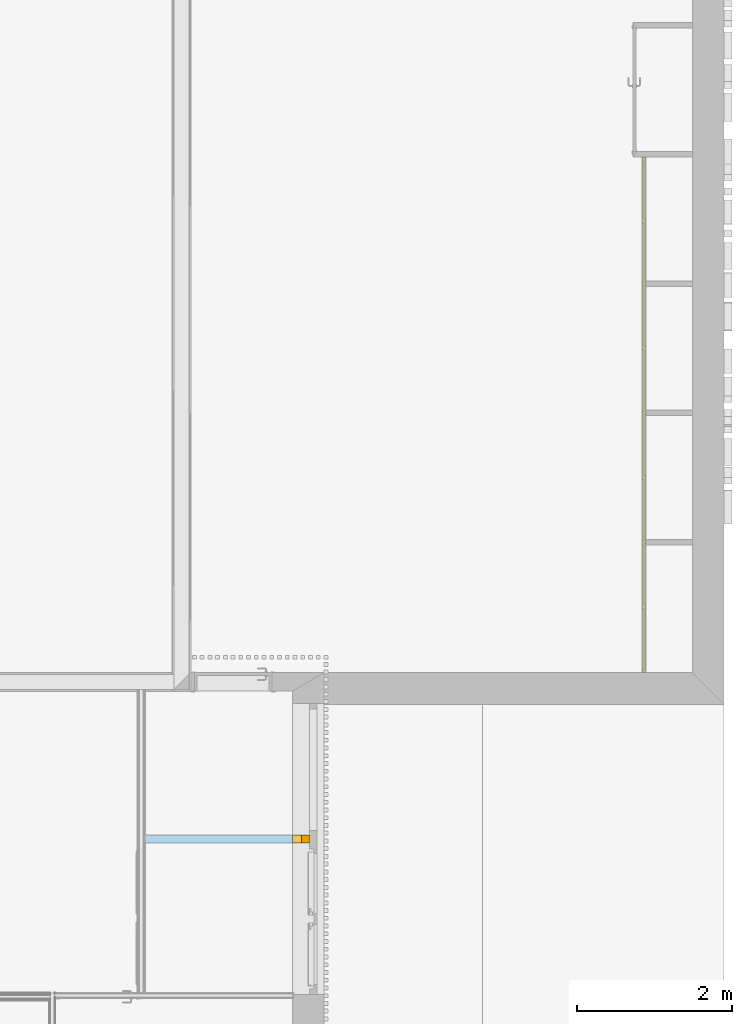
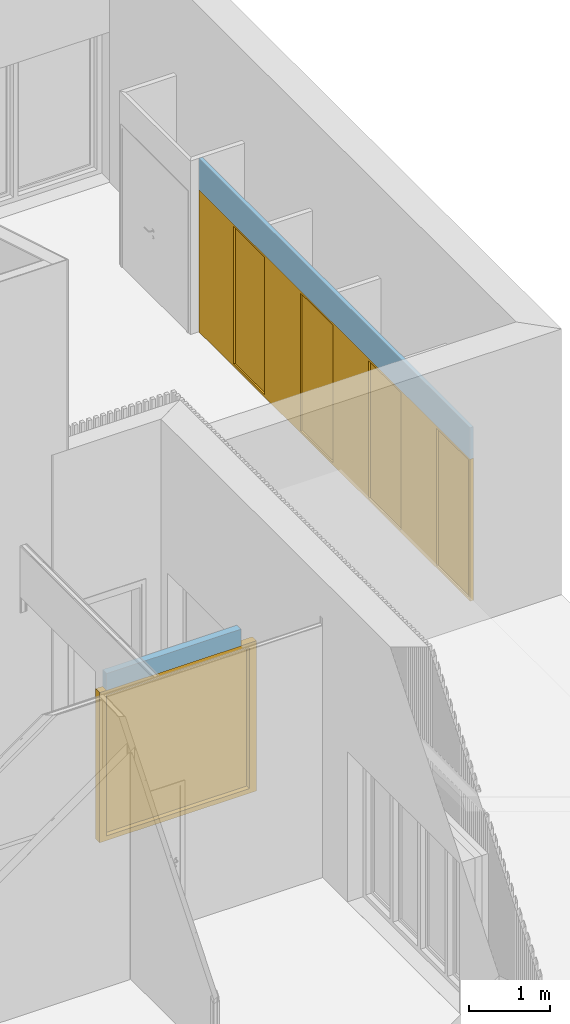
# One storey, part 12 of 34: 2 windows, 2 openings, plus 2 elements that do not belong to this part.
"""IFC2X3 building model written with IfcOpenShell, lengths in metres."""

import ifcopenshell
import ifcopenshell.guid

model = None  # the IFC model being written
_history = None  # IfcOwnerHistory: only IFC2X3 demands one
_inside = {}  # id of a spatial element -> (the spatial element, [elements in it])
_under = {}  # id of a project, library or spatial element -> (it, [spatial elements below it])
_declared = {}  # id of a project -> (the project, [libraries it declares])
_typed = {}  # id of a type object -> (the type object, [elements of that type])
_made_of = {}  # id of a material, layer set ... -> (it, [elements and type objects made of it])


def new_model(schema):
    """Start an empty IFC model of exactly this schema.

    Asked for "IFC4X3", IfcOpenShell would pick the latest addendum, in which some entities
    have other attributes; the version numbers below select the first issue.
    IFC2X3 requires an IfcOwnerHistory on every rooted entity: one is made here for all.
    """
    global model, _history
    if schema == "IFC4X3":
        model = ifcopenshell.file(schema_version=(4, 3, 0, 0))
    else:
        model = ifcopenshell.file(schema=schema)
    _inside.clear()
    _under.clear()
    _declared.clear()
    _typed.clear()
    _made_of.clear()
    _history = None
    if model.schema == "IFC2X3":
        org = make("IfcOrganization", Name="unknown")
        user = make(
            "IfcPersonAndOrganization",
            ThePerson=make("IfcPerson", FamilyName="unknown"),
            TheOrganization=org,
        )
        app = make(
            "IfcApplication",
            ApplicationDeveloper=org,
            Version="unknown",
            ApplicationFullName="unknown",
            ApplicationIdentifier="unknown",
        )
        _history = make(
            "IfcOwnerHistory",
            OwningUser=user,
            OwningApplication=app,
            ChangeAction="ADDED",
            CreationDate=0,
        )
    return model


def make(cls, **values):
    """One entity of the class cls with the attributes given. An attribute that is None is left unset."""
    return model.create_entity(
        cls, **{name: value for name, value in values.items() if value is not None}
    )


def entity(cls, *values):
    """Any entity or typed value of the class cls, its attributes in the order of the schema. None: left unset."""
    e = model.create_entity(cls)
    for i, value in enumerate(values):
        if value is not None:
            e[i] = value
    return e


def rooted(cls, **values):
    """An entity with a GlobalId (a new one), such as an element, a storey or a relation."""
    return make(cls, GlobalId=ifcopenshell.guid.new(), OwnerHistory=_history, **values)


def si_unit(unit_type, name, prefix=None):
    """IfcSIUnit, for example si_unit("LENGTHUNIT", "METRE", prefix="MILLI")."""
    return make("IfcSIUnit", UnitType=unit_type, Prefix=prefix, Name=name)


def converted_unit(unit_type, name, factor, base, dimensions=None, offset=None):
    """IfcConversionBasedUnit, such as the inch: factor (a typed value) times the base unit."""
    return make(
        "IfcConversionBasedUnit"
        if offset is None
        else "IfcConversionBasedUnitWithOffset",
        ConversionOffset=offset,
        Dimensions=None
        if dimensions is None
        else entity("IfcDimensionalExponents", *dimensions),
        UnitType=unit_type,
        Name=name,
        ConversionFactor=make(
            "IfcMeasureWithUnit", ValueComponent=factor, UnitComponent=base
        ),
    )


def derived_unit(unit_type, elements):
    """IfcDerivedUnit: a product of units, each with its exponent."""
    return make(
        "IfcDerivedUnit",
        Elements=[
            make("IfcDerivedUnitElement", Unit=unit, Exponent=power)
            for unit, power in elements
        ],
        UnitType=unit_type,
    )


def money_unit(currency):
    """IfcMonetaryUnit."""
    return make("IfcMonetaryUnit", Currency=currency)


def assignment(units):
    """IfcUnitAssignment: the units of a project."""
    return None if units is None else make("IfcUnitAssignment", Units=units)


def point(xyz):
    """IfcCartesianPoint."""
    return None if xyz is None else make("IfcCartesianPoint", Coordinates=xyz)


def direction(xyz):
    """IfcDirection."""
    return None if xyz is None else make("IfcDirection", DirectionRatios=xyz)


def frame(location, z_axis=None, x_axis=None):
    """IfcAxis2Placement3D, a coordinate frame: its origin and axes. An axis left out is left unset."""
    return make(
        "IfcAxis2Placement3D",
        Location=point(location),
        Axis=direction(z_axis),
        RefDirection=direction(x_axis),
    )


def frame_2d(location, x_axis=None):
    """IfcAxis2Placement2D, a coordinate frame in the plane: its origin and x axis."""
    return make(
        "IfcAxis2Placement2D", Location=point(location), RefDirection=direction(x_axis)
    )


def origin_with_axes():
    """The frame at (0, 0, 0) with the z axis (0, 0, 1) and the x axis (1, 0, 0) written out."""
    return frame((0.0, 0.0, 0.0), z_axis=(0.0, 0.0, 1.0), x_axis=(1.0, 0.0, 0.0))


def origin_2d_with_axis():
    """The frame at (0, 0) in the plane with the x axis (1, 0) written out."""
    return frame_2d((0.0, 0.0), x_axis=(1.0, 0.0))


def place(relative_to, where):
    """IfcLocalPlacement: puts the frame where relative to a parent placement (None: the world)."""
    return make(
        "IfcLocalPlacement", PlacementRelTo=relative_to, RelativePlacement=where
    )


def context(
    kind, dimensions, precision=None, world=None, true_north=None, identifier=None
):
    """IfcGeometricRepresentationContext, for example the 3D "Model" context."""
    return make(
        "IfcGeometricRepresentationContext",
        ContextIdentifier=identifier,
        ContextType=kind,
        CoordinateSpaceDimension=dimensions,
        Precision=precision,
        WorldCoordinateSystem=world,
        TrueNorth=true_north,
    )


def subcontext(parent, identifier, kind, view, scale=None):
    """IfcGeometricRepresentationSubContext, for example "Body" below "Model"."""
    return make(
        "IfcGeometricRepresentationSubContext",
        ContextIdentifier=identifier,
        ContextType=kind,
        ParentContext=parent,
        TargetScale=scale,
        TargetView=view,
    )


def project(units=None, contexts=None):
    """IfcProject with its units and contexts."""
    return rooted(
        "IfcProject",
        Name="project",
        RepresentationContexts=contexts,
        UnitsInContext=assignment(units),
    )


def spatial(cls, under=None, at=None, **own):
    """A site, building, storey or space (cls), placed at a placement, below another one or the project."""
    s = rooted(cls, ObjectPlacement=at, **own)
    if under is not None:
        _under.setdefault(under.id(), (under, []))[1].append(s)
    return s


def polyline(points):
    """IfcPolyline through the points."""
    return make("IfcPolyline", Points=[point(p) for p in points])


def profile(cls, at=None, kind="AREA", **sizes):
    """A parametric profile (cls). Its sizes go by their IFC names, for example OverallWidth=200.0."""
    return make(cls, ProfileType=kind, Position=at, **sizes)


def rectangle(**sizes):
    """IfcRectangleProfileDef."""
    return profile("IfcRectangleProfileDef", **sizes)


def outline(outer, holes=None, kind="AREA"):
    """IfcArbitraryClosedProfileDef: a profile drawn as a closed curve; with holes, ...WithVoids."""
    if holes is None:
        return make("IfcArbitraryClosedProfileDef", ProfileType=kind, OuterCurve=outer)
    return make(
        "IfcArbitraryProfileDefWithVoids",
        ProfileType=kind,
        OuterCurve=outer,
        InnerCurves=holes,
    )


def extrude(swept, where, along, depth):
    """IfcExtrudedAreaSolid: the profile swept, set in the frame where, extruded along a direction by depth."""
    return make(
        "IfcExtrudedAreaSolid",
        SweptArea=swept,
        Position=where,
        ExtrudedDirection=direction(along),
        Depth=depth,
    )


def faces_of(points, faces, orient=None, outer=None):
    """IfcFace entities. A face is a list of loops; a loop is a list of indices into points, from 0.

    orient and outer hold one flag for each loop. By default every Orientation is true, the
    first loop of a face is its IfcFaceOuterBound and the others are IfcFaceBound.
    """
    made = []
    for i, loops in enumerate(faces):
        bounds = []
        for j, loop in enumerate(loops):
            is_outer = j == 0 if outer is None else outer[i][j]
            bounds.append(
                make(
                    "IfcFaceOuterBound" if is_outer else "IfcFaceBound",
                    Bound=make("IfcPolyLoop", Polygon=[points[k] for k in loop]),
                    Orientation=True if orient is None else orient[i][j],
                )
            )
        made.append(make("IfcFace", Bounds=bounds))
    return made


def open_shell(faces, orient=None, outer=None):
    """The faces of one IfcOpenShell. surface_model builds it on its shared points."""
    return ("IfcOpenShell", faces, orient, outer)


def faceted_brep(points, faces, orient=None, outer=None, voids=None):
    """IfcFacetedBrep: a solid bounded by flat faces; with voids (closed shells), ...WithVoids."""
    shared = [point(p) for p in points]
    hull = make("IfcClosedShell", CfsFaces=faces_of(shared, faces, orient, outer))
    if voids is None:
        return make("IfcFacetedBrep", Outer=hull)
    return make(
        "IfcFacetedBrepWithVoids",
        Outer=hull,
        Voids=[
            make(cls, CfsFaces=faces_of(shared, fs, o, b)) for cls, fs, o, b in voids
        ],
    )


def surface_model(cls, points, shells):
    """IfcFaceBasedSurfaceModel or IfcShellBasedSurfaceModel (cls): surfaces that need not close."""
    shared = [point(p) for p in points]
    made = [make(c, CfsFaces=faces_of(shared, fs, o, b)) for c, fs, o, b in shells]
    if cls == "IfcFaceBasedSurfaceModel":
        return make(cls, FbsmFaces=made)
    return make(cls, SbsmBoundary=made)


def shape(context_of_items, identifier, shape_type, items):
    """IfcShapeRepresentation: the items that make up one representation, for example the "Body"."""
    return make(
        "IfcShapeRepresentation",
        ContextOfItems=context_of_items,
        RepresentationIdentifier=identifier,
        RepresentationType=shape_type,
        Items=items,
    )


def material(Name=None, Category=None):
    """IfcMaterial."""
    return make("IfcMaterial", Name=Name, Category=Category)


def layer(
    of_material, thickness, ventilated=None, Name=None, Category=None, Priority=None
):
    """IfcMaterialLayer: one layer of a wall or slab, of a material (None: an air gap)."""
    return make(
        "IfcMaterialLayer",
        Material=of_material,
        LayerThickness=thickness,
        IsVentilated=ventilated,
        Name=Name,
        Category=Category,
        Priority=Priority,
    )


def layer_set(layers, Name=None):
    """IfcMaterialLayerSet."""
    return make("IfcMaterialLayerSet", MaterialLayers=layers, LayerSetName=Name)


def layer_usage(for_layer_set, set_direction, sense, offset, extent=None):
    """IfcMaterialLayerSetUsage: how a layer set lies in its element."""
    return make(
        "IfcMaterialLayerSetUsage",
        ForLayerSet=for_layer_set,
        LayerSetDirection=set_direction,
        DirectionSense=sense,
        OffsetFromReferenceLine=offset,
        ReferenceExtent=extent,
    )


def made_of(thing, what):
    """Note that an element or type object is made of a material, layer set ...; save() writes the relation."""
    if what is not None:
        _made_of.setdefault(what.id(), (what, []))[1].append(thing)
    return thing


def type_object(cls, material=None, **own):
    """A type object (cls), such as IfcWallType, which elements share."""
    return made_of(rooted(cls, **own), material)


def element(
    cls,
    number,
    at=None,
    inside=None,
    cuts=None,
    type_object=None,
    material=None,
    context=None,
    identifier="Body",
    shape_type=None,
    held_by="IfcProductDefinitionShape",
    body=None,
    shapes=None,
    **own,
):
    """One element of the class cls, such as IfcWall. Its Tag is "e" and its number.

    at: its placement. inside: the storey or other place that contains it. cuts: it is an
    opening in that element (IfcRelVoidsElement). A single representation is given by context,
    identifier, shape_type and body (its items); several are given by shapes. held_by: the class
    of the entity that holds the representations. save() writes the other relations.
    """
    e = rooted(cls, Tag="e%d" % number, ObjectPlacement=at, **own)
    if body is not None:
        shapes = [shape(context, identifier, shape_type, body)]
    if shapes is not None:
        e.Representation = make(held_by, Representations=shapes)
    if inside is not None:
        _inside.setdefault(inside.id(), (inside, []))[1].append(e)
    if cuts is not None:
        rooted(
            "IfcRelVoidsElement", RelatingBuildingElement=cuts, RelatedOpeningElement=e
        )
    if type_object is not None:
        _typed.setdefault(type_object.id(), (type_object, []))[1].append(e)
    return made_of(e, material)


def fill(opening, filler):
    """IfcRelFillsElement: the door or window that sits in an opening."""
    return rooted(
        "IfcRelFillsElement",
        RelatingOpeningElement=opening,
        RelatedBuildingElement=filler,
    )


def aggregate(whole, parts):
    """IfcRelAggregates: a whole, such as a stair, and the parts it consists of."""
    return rooted("IfcRelAggregates", RelatingObject=whole, RelatedObjects=parts)


def save(model, path):
    """Write the relations noted so far, then the file.

    IfcRelAggregates (storeys below a building ...), IfcRelContainedInSpatialStructure (elements
    in a storey), IfcRelDefinesByType, IfcRelAssociatesMaterial and IfcRelDeclares: one each for
    every whole, place, type object, material and project.
    """
    for whole, parts in _under.values():
        aggregate(whole, parts)
    for where, things in _inside.values():
        rooted(
            "IfcRelContainedInSpatialStructure",
            RelatedElements=things,
            RelatingStructure=where,
        )
    for kind, things in _typed.values():
        rooted("IfcRelDefinesByType", RelatedObjects=things, RelatingType=kind)
    for what, things in _made_of.values():
        rooted("IfcRelAssociatesMaterial", RelatedObjects=things, RelatingMaterial=what)
    for by, libraries in _declared.values():
        rooted("IfcRelDeclares", RelatingContext=by, RelatedDefinitions=libraries)
    model.write(path)


model = new_model("IFC2X3")

# Units and contexts
model_context = context("Model", 3, precision=1e-05, world=origin_with_axes(), true_north=direction((0.0, 1.0)))
body_context = subcontext(model_context, "Body", "Model", "MODEL_VIEW")
ifc_project = project(units=[si_unit("LENGTHUNIT", "METRE"), si_unit("AREAUNIT", "SQUARE_METRE"), si_unit("VOLUMEUNIT", "CUBIC_METRE"), converted_unit("PLANEANGLEUNIT", "DEGREE", entity("IfcPlaneAngleMeasure", 0.0174532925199), si_unit("PLANEANGLEUNIT", "RADIAN"), dimensions=[0, 0, 0, 0, 0, 0, 0]), money_unit("CHF"), converted_unit("TIMEUNIT", "Year", entity("IfcTimeMeasure", 31556926.0), si_unit("TIMEUNIT", "SECOND"), dimensions=[0, 0, 1, 0, 0, 0, 0]), si_unit("MASSUNIT", "GRAM", prefix="KILO"), si_unit("THERMODYNAMICTEMPERATUREUNIT", "DEGREE_CELSIUS"), si_unit("LUMINOUSINTENSITYUNIT", "LUMEN"), si_unit("ENERGYUNIT", "JOULE", prefix="MEGA"), derived_unit("THERMALCONDUCTANCEUNIT", [(si_unit("POWERUNIT", "WATT"), 1), (si_unit("LENGTHUNIT", "METRE"), -1), (si_unit("THERMODYNAMICTEMPERATUREUNIT", "KELVIN"), -1)]), derived_unit("SPECIFICHEATCAPACITYUNIT", [(si_unit("ENERGYUNIT", "JOULE"), 1), (si_unit("MASSUNIT", "GRAM", prefix="KILO"), -1), (si_unit("THERMODYNAMICTEMPERATUREUNIT", "KELVIN"), -1)]), derived_unit("MASSDENSITYUNIT", [(si_unit("MASSUNIT", "GRAM", prefix="KILO"), 1), (si_unit("VOLUMEUNIT", "CUBIC_METRE"), -1)])], contexts=[model_context])

# Site, building, storey
site_placement = place(None, origin_with_axes())
site = spatial("IfcSite", under=ifc_project, at=site_placement, Name="Site", CompositionType="ELEMENT")
building_placement = place(site_placement, origin_with_axes())
building = spatial("IfcBuilding", under=site, at=building_placement, Name="Bâtiment", CompositionType="ELEMENT")
storey_placement = place(building_placement, origin_with_axes())
storey = spatial("IfcBuildingStorey", under=building, at=storey_placement, Name="Rez-de-chaussée", CompositionType="ELEMENT", Elevation=0.0)

# Wall, opening, window
ifc_material_1 = material(Name="Finition int - Plaque de plâtre")
ifc_layer_1 = layer(ifc_material_1, 0.013, ventilated="UNKNOWN")
ifc_material_2 = material(Name="Isolation - Laine de verre")
ifc_layer_2 = layer(ifc_material_2, 0.024, ventilated="UNKNOWN")
ifc_layer_3 = layer(ifc_material_1, 0.013, ventilated="UNKNOWN")
ifc_layer_set_1 = layer_set([ifc_layer_1, ifc_layer_2, ifc_layer_3], Name="Cloison 50")
ifc_layer_usage_1 = layer_usage(ifc_layer_set_1, "AXIS2", "POSITIVE", -0.05)
wall_type_1 = type_object("IfcWallType", Name="Cloison 50 50", PredefinedType="NOTDEFINED")
wall_1_placement = place(storey_placement, frame((38.1994697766, 21.78, 0.0), z_axis=(0.0, 0.0, 1.0), x_axis=(0.0, -1.0, 0.0)))
wall_1 = element("IfcWallStandardCase", 1, at=wall_1_placement, inside=storey, type_object=wall_type_1, material=ifc_layer_usage_1, Name="MUR_EXT-006", context=body_context, shape_type="SweptSolid", body=[
    extrude(outline(polyline([(0.0, -0.05), (6.66, -0.05), (6.66, 0.0), (0.0, 0.0), (0.0, -0.05)])), origin_with_axes(), (0.0, 0.0, 1.0), 2.6),
])
opening_1_placement = place(wall_1_placement, frame((3.33, 0.0, 0.0), z_axis=(0.0, 0.0, 1.0), x_axis=(1.0, 0.0, 0.0)))
opening_1 = element("IfcOpeningElement", 2, at=opening_1_placement, cuts=wall_1, Name="Portes placard couliisantes 4x2panneaux", context=body_context, shape_type="SweptSolid", body=[
    extrude(rectangle(XDim=6.66, YDim=2.13, at=origin_2d_with_axis()), frame((0.0, 0.05, 1.065), z_axis=(0.0, -1.0, 0.0), x_axis=(1.0, 0.0, 0.0)), (0.0, 0.0, 1.0), 0.15),
])
window_style_1 = type_object("IfcWindowStyle", Name="Fenêtre horizontale à châssis multiples 26", ConstructionType="NOTDEFINED", OperationType="USERDEFINED", ParameterTakesPrecedence=False, Sizeable=False)
window_1_placement = place(opening_1_placement, frame((-3.33, 0.0, 0.0), z_axis=(0.0, 0.0, 1.0), x_axis=(1.0, 0.0, 0.0)))
window_1 = element("IfcWindow", 3, at=window_1_placement, inside=storey, type_object=window_style_1, Name="Portes placard couliisantes 4x2panneaux", ObjectType="WINDOW", OverallHeight=2.13, OverallWidth=6.66, context=body_context, shape_type="Brep", body=[
    faceted_brep([(0.035, -0.05, 2.095), (0.035, 0.0, 2.095), (0.0, 0.0, 2.095), (0.0, -0.05, 2.095), (0.035, -0.05, 0.035), (0.035, 0.0, 0.035), (0.0, 0.0, 0.035), (0.0, -0.05, 0.035)], [[[0, 1, 2, 3]], [[4, 5, 1, 0]], [[1, 5, 6, 2]], [[3, 2, 6, 7]], [[0, 3, 7, 4]], [[7, 6, 5, 4]]]),
    faceted_brep([(6.625, -0.05, 0.035), (6.625, 0.0, 0.035), (6.66, 0.0, 0.035), (6.66, -0.05, 0.035), (6.625, -0.05, 2.095), (6.625, 0.0, 2.095), (6.66, 0.0, 2.095), (6.66, -0.05, 2.095)], [[[0, 1, 2, 3]], [[4, 5, 1, 0]], [[1, 5, 6, 2]], [[3, 2, 6, 7]], [[0, 3, 7, 4]], [[7, 6, 5, 4]]]),
    faceted_brep([(6.625, -0.05, 2.095), (6.625, 0.0, 2.095), (6.66, 0.0, 2.095), (6.66, -0.05, 2.095), (4.9925, -0.05, 2.095), (4.9925, 0.0, 2.095), (4.9575, 0.0, 2.095), (3.3225, 0.0, 2.095), (3.2875, 0.0, 2.095), (1.6525, 0.0, 2.095), (1.6175, 0.0, 2.095), (0.035, 0.0, 2.095), (0.0, 0.0, 2.095), (0.0, 0.0, 2.13), (6.66, 0.0, 2.13), (6.66, -0.05, 2.13), (0.0, -0.05, 2.13), (0.0, -0.05, 2.095), (0.035, -0.05, 2.095), (1.6175, -0.05, 2.095), (1.6525, -0.05, 2.095), (3.2875, -0.05, 2.095), (3.3225, -0.05, 2.095), (4.9575, -0.05, 2.095)], [[[0, 1, 2, 3]], [[4, 5, 1, 0]], [[1, 5, 6, 7, 8, 9, 10, 11, 12, 13, 14, 2]], [[3, 2, 14, 15]], [[0, 3, 15, 16, 17, 18, 19, 20, 21, 22, 23, 4]], [[23, 6, 5, 4]], [[22, 7, 6, 23]], [[21, 8, 7, 22]], [[20, 9, 8, 21]], [[19, 10, 9, 20]], [[18, 11, 10, 19]], [[17, 12, 11, 18]], [[16, 13, 12, 17]], [[15, 14, 13, 16]]]),
    faceted_brep([(4.9925, -0.05, 0.035), (4.9925, 0.0, 0.035), (4.9575, 0.0, 0.035), (4.9575, -0.05, 0.035), (6.625, -0.05, 0.035), (6.625, 0.0, 0.035), (6.66, 0.0, 0.035), (6.66, 0.0, 0.0), (0.0, 0.0, 0.0), (0.0, 0.0, 0.035), (0.035, 0.0, 0.035), (1.6175, 0.0, 0.035), (1.6525, 0.0, 0.035), (3.2875, 0.0, 0.035), (3.3225, 0.0, 0.035), (3.3225, -0.05, 0.035), (3.2875, -0.05, 0.035), (1.6525, -0.05, 0.035), (1.6175, -0.05, 0.035), (0.035, -0.05, 0.035), (0.0, -0.05, 0.035), (0.0, -0.05, 0.0), (6.66, -0.05, 0.0), (6.66, -0.05, 0.035)], [[[0, 1, 2, 3]], [[4, 5, 1, 0]], [[1, 5, 6, 7, 8, 9, 10, 11, 12, 13, 14, 2]], [[3, 2, 14, 15]], [[0, 3, 15, 16, 17, 18, 19, 20, 21, 22, 23, 4]], [[23, 6, 5, 4]], [[22, 7, 6, 23]], [[21, 8, 7, 22]], [[20, 9, 8, 21]], [[19, 10, 9, 20]], [[18, 11, 10, 19]], [[17, 12, 11, 18]], [[16, 13, 12, 17]], [[15, 14, 13, 16]]]),
    faceted_brep([(1.6525, -0.05, 0.035), (1.6525, 0.0, 0.035), (1.6525, 0.0, 2.095), (1.6525, -0.05, 2.095), (1.6175, -0.05, 0.035), (1.6175, 0.0, 0.035), (1.6175, 0.0, 2.095), (1.6175, -0.05, 2.095)], [[[0, 1, 2, 3]], [[4, 5, 1, 0]], [[1, 5, 6, 2]], [[3, 2, 6, 7]], [[0, 3, 7, 4]], [[7, 6, 5, 4]]]),
    faceted_brep([(3.3225, -0.05, 0.035), (3.3225, 0.0, 0.035), (3.3225, 0.0, 2.095), (3.3225, -0.05, 2.095), (3.2875, -0.05, 0.035), (3.2875, 0.0, 0.035), (3.2875, 0.0, 2.095), (3.2875, -0.05, 2.095)], [[[0, 1, 2, 3]], [[4, 5, 1, 0]], [[1, 5, 6, 2]], [[3, 2, 6, 7]], [[0, 3, 7, 4]], [[7, 6, 5, 4]]]),
    faceted_brep([(4.9925, -0.05, 0.035), (4.9925, 0.0, 0.035), (4.9925, 0.0, 2.095), (4.9925, -0.05, 2.095), (4.9575, -0.05, 0.035), (4.9575, 0.0, 0.035), (4.9575, 0.0, 2.095), (4.9575, -0.05, 2.095)], [[[0, 1, 2, 3]], [[4, 5, 1, 0]], [[1, 5, 6, 2]], [[3, 2, 6, 7]], [[0, 3, 7, 4]], [[7, 6, 5, 4]]]),
    faceted_brep([(0.80125, -0.025, 0.035), (0.80125, 0.0, 0.035), (1.6175, 0.0, 0.035), (1.6175, -0.025, 0.035), (0.80125, -0.025, 2.095), (0.80125, 0.0, 2.095), (1.6175, 0.0, 2.095), (1.6175, -0.025, 2.095)], [[[0, 1, 2, 3]], [[4, 5, 1, 0]], [[1, 5, 6, 2]], [[3, 2, 6, 7]], [[0, 3, 7, 4]], [[7, 6, 5, 4]]]),
    faceted_brep([(0.035, -0.05, 0.035), (0.035, -0.025, 0.035), (0.85125, -0.025, 0.035), (0.85125, -0.05, 0.035), (0.035, -0.05, 2.095), (0.035, -0.025, 2.095), (0.85125, -0.025, 2.095), (0.85125, -0.05, 2.095)], [[[0, 1, 2, 3]], [[4, 5, 1, 0]], [[1, 5, 6, 2]], [[3, 2, 6, 7]], [[0, 3, 7, 4]], [[7, 6, 5, 4]]]),
    faceted_brep([(2.445, -0.025, 0.035), (2.445, 0.0, 0.035), (3.2875, 0.0, 0.035), (3.2875, -0.025, 0.035), (2.445, -0.025, 2.095), (2.445, 0.0, 2.095), (3.2875, 0.0, 2.095), (3.2875, -0.025, 2.095)], [[[0, 1, 2, 3]], [[4, 5, 1, 0]], [[1, 5, 6, 2]], [[3, 2, 6, 7]], [[0, 3, 7, 4]], [[7, 6, 5, 4]]]),
    faceted_brep([(1.6525, -0.05, 0.035), (1.6525, -0.025, 0.035), (2.495, -0.025, 0.035), (2.495, -0.05, 0.035), (1.6525, -0.05, 2.095), (1.6525, -0.025, 2.095), (2.495, -0.025, 2.095), (2.495, -0.05, 2.095)], [[[0, 1, 2, 3]], [[4, 5, 1, 0]], [[1, 5, 6, 2]], [[3, 2, 6, 7]], [[0, 3, 7, 4]], [[7, 6, 5, 4]]]),
    faceted_brep([(4.115, -0.025, 0.035), (4.115, 0.0, 0.035), (4.9575, 0.0, 0.035), (4.9575, -0.025, 0.035), (4.115, -0.025, 2.095), (4.115, 0.0, 2.095), (4.9575, 0.0, 2.095), (4.9575, -0.025, 2.095)], [[[0, 1, 2, 3]], [[4, 5, 1, 0]], [[1, 5, 6, 2]], [[3, 2, 6, 7]], [[0, 3, 7, 4]], [[7, 6, 5, 4]]]),
    faceted_brep([(3.3225, -0.05, 0.035), (3.3225, -0.025, 0.035), (4.165, -0.025, 0.035), (4.165, -0.05, 0.035), (3.3225, -0.05, 2.095), (3.3225, -0.025, 2.095), (4.165, -0.025, 2.095), (4.165, -0.05, 2.095)], [[[0, 1, 2, 3]], [[4, 5, 1, 0]], [[1, 5, 6, 2]], [[3, 2, 6, 7]], [[0, 3, 7, 4]], [[7, 6, 5, 4]]]),
    faceted_brep([(5.78375, -0.025, 0.035), (5.78375, 0.0, 0.035), (6.625, 0.0, 0.035), (6.625, -0.025, 0.035), (5.78375, -0.025, 2.095), (5.78375, 0.0, 2.095), (6.625, 0.0, 2.095), (6.625, -0.025, 2.095)], [[[0, 1, 2, 3]], [[4, 5, 1, 0]], [[1, 5, 6, 2]], [[3, 2, 6, 7]], [[0, 3, 7, 4]], [[7, 6, 5, 4]]]),
    faceted_brep([(4.9925, -0.05, 0.035), (4.9925, -0.025, 0.035), (5.83375, -0.025, 0.035), (5.83375, -0.05, 0.035), (4.9925, -0.05, 2.095), (4.9925, -0.025, 2.095), (5.83375, -0.025, 2.095), (5.83375, -0.05, 2.095)], [[[0, 1, 2, 3]], [[4, 5, 1, 0]], [[1, 5, 6, 2]], [[3, 2, 6, 7]], [[0, 3, 7, 4]], [[7, 6, 5, 4]]]),
])
fill(opening_1, window_1)

ifc_layer_4 = layer(ifc_material_1, 0.013, ventilated="UNKNOWN")
ifc_layer_5 = layer(ifc_material_1, 0.013, ventilated="UNKNOWN")
ifc_layer_6 = layer(ifc_material_2, 0.048, ventilated="UNKNOWN")
ifc_layer_7 = layer(ifc_material_1, 0.013, ventilated="UNKNOWN")
ifc_layer_8 = layer(ifc_material_1, 0.013, ventilated="UNKNOWN")
ifc_layer_set_2 = layer_set([ifc_layer_4, ifc_layer_5, ifc_layer_6, ifc_layer_7, ifc_layer_8], Name="Cloison 100/48")
ifc_layer_usage_2 = layer_usage(ifc_layer_set_2, "AXIS2", "POSITIVE", -0.05)
wall_type_2 = type_object("IfcWallType", Name="Cloison 100/48 100", PredefinedType="NOTDEFINED")
wall_2_placement = place(storey_placement, frame((31.6794697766, 12.97, 0.0), z_axis=(0.0, 0.0, 1.0), x_axis=(1.0, 0.0, 0.0)))
wall_2 = element("IfcWallStandardCase", 4, at=wall_2_placement, inside=storey, type_object=wall_type_2, material=ifc_layer_usage_2, Name="MUR_EXT-009", context=body_context, shape_type="SweptSolid", body=[
    extrude(outline(polyline([(0.05, -0.05), (1.95, -0.05), (1.95, 0.05), (0.05, 0.05), (0.05, -0.05)])), origin_with_axes(), (0.0, 0.0, 1.0), 2.5),
])
opening_2_placement = place(wall_2_placement, frame((1.06, 0.0, 0.0), z_axis=(0.0, 0.0, 1.0), x_axis=(1.0, 0.0, 0.0)))
opening_2 = element("IfcOpeningElement", 5, at=opening_2_placement, cuts=wall_2, Name="FENETRE-005", context=body_context, shape_type="SweptSolid", body=[
    extrude(rectangle(XDim=2.22, YDim=2.25, at=origin_2d_with_axis()), frame((0.0, 0.1, 1.125), z_axis=(0.0, -1.0, 0.0), x_axis=(1.0, 0.0, 0.0)), (0.0, 0.0, 1.0), 0.3),
])
window_style_2 = type_object("IfcWindowStyle", Name="Fenêtre 26", ConstructionType="NOTDEFINED", OperationType="SINGLE_PANEL", ParameterTakesPrecedence=False, Sizeable=False)
window_2_placement = place(opening_2_placement, frame((-1.11, 0.0, 0.0), z_axis=(0.0, 0.0, 1.0), x_axis=(1.0, 0.0, 0.0)))
window_2 = element("IfcWindow", 6, at=window_2_placement, inside=storey, type_object=window_style_2, Name="FENETRE-005", ObjectType="WINDOW", OverallHeight=2.25, OverallWidth=2.22, context=body_context, shape_type="SurfaceModel", body=[
    faceted_brep([(0.1, -0.05, 2.18), (0.1, 0.05, 2.18), (0.0, 0.05, 2.18), (0.0, -0.05, 2.18), (0.1, -0.05, 0.07), (0.1, 0.05, 0.07), (0.0, 0.05, 0.07), (0.0, -0.05, 0.07)], [[[0, 1, 2, 3]], [[4, 5, 1, 0]], [[1, 5, 6, 2]], [[3, 2, 6, 7]], [[0, 3, 7, 4]], [[7, 6, 5, 4]]]),
    faceted_brep([(2.12, -0.05, 0.07), (2.12, 0.05, 0.07), (2.22, 0.05, 0.07), (2.22, -0.05, 0.07), (2.12, -0.05, 2.18), (2.12, 0.05, 2.18), (2.22, 0.05, 2.18), (2.22, -0.05, 2.18)], [[[0, 1, 2, 3]], [[4, 5, 1, 0]], [[1, 5, 6, 2]], [[3, 2, 6, 7]], [[0, 3, 7, 4]], [[7, 6, 5, 4]]]),
    faceted_brep([(0.1, -0.05, 0.07), (0.1, 0.05, 0.07), (0.0, 0.05, 0.07), (0.0, -0.05, 0.07), (2.12, -0.05, 0.07), (2.12, 0.05, 0.07), (2.22, 0.05, 0.07), (2.22, 0.05, 0.0), (0.0, 0.05, 0.0), (0.0, -0.05, 0.0), (2.22, -0.05, 0.0), (2.22, -0.05, 0.07)], [[[0, 1, 2, 3]], [[4, 5, 1, 0]], [[1, 5, 6, 7, 8, 2]], [[3, 2, 8, 9]], [[0, 3, 9, 10, 11, 4]], [[11, 6, 5, 4]], [[10, 7, 6, 11]], [[9, 8, 7, 10]]]),
    faceted_brep([(2.12, -0.05, 2.18), (2.12, 0.05, 2.18), (2.22, 0.05, 2.18), (2.22, -0.05, 2.18), (0.1, -0.05, 2.18), (0.1, 0.05, 2.18), (0.0, 0.05, 2.18), (0.0, 0.05, 2.25), (2.22, 0.05, 2.25), (2.22, -0.05, 2.25), (0.0, -0.05, 2.25), (0.0, -0.05, 2.18)], [[[0, 1, 2, 3]], [[4, 5, 1, 0]], [[1, 5, 6, 7, 8, 2]], [[3, 2, 8, 9]], [[0, 3, 9, 10, 11, 4]], [[11, 6, 5, 4]], [[10, 7, 6, 11]], [[9, 8, 7, 10]]]),
    surface_model("IfcShellBasedSurfaceModel", [(0.1, 0.015, 0.07), (2.12, 0.015, 0.07), (2.12, 0.015, 2.18), (0.1, 0.015, 2.18)], [open_shell([[[0, 1, 2, 3]]])]),
    surface_model("IfcShellBasedSurfaceModel", [(0.1, 0.035, 0.07), (0.1, 0.035, 2.18), (2.12, 0.035, 2.18), (2.12, 0.035, 0.07)], [open_shell([[[0, 1, 2, 3]]])]),
])
fill(opening_2, window_2)

save(model, "model.ifc")
